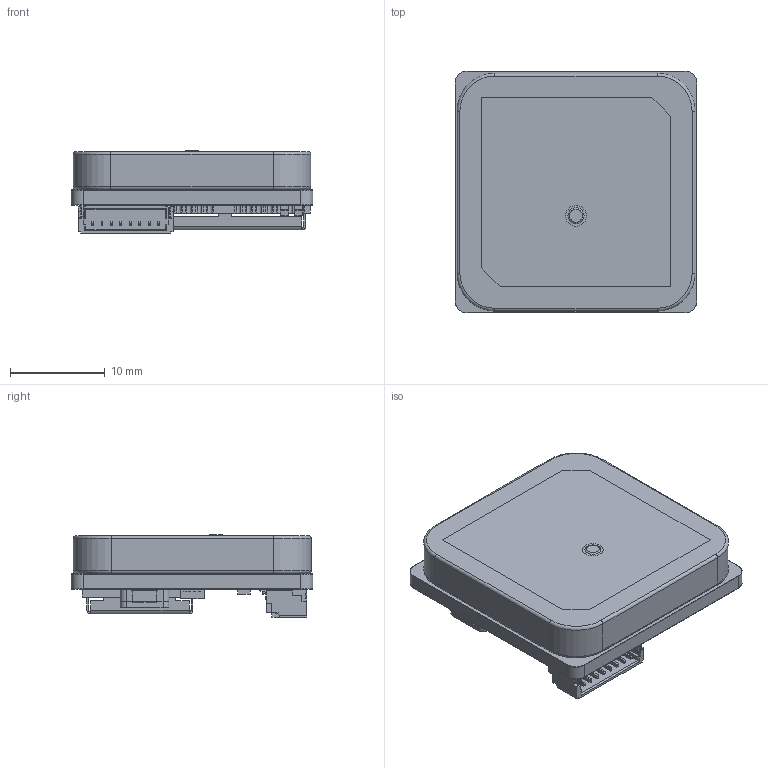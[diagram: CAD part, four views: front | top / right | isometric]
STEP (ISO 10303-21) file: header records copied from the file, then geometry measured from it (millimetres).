
FILE_DESCRIPTION(/* description */ ('KiCad electronic assembly'),/* implementation_level */ '2;1');
FILE_NAME(/* name */ 'orbit_public.step',/* time_stamp */ '2026-03-02T09:55:32+02:00',/* author */ (''),/* organization */ (''),/* preprocessor_version */ 'ST-DEVELOPER v20.1',/* originating_system */ 'Autodesk Translation Framework v14.21.0.0',/* authorisation */ '');
FILE_SCHEMA (('AUTOMOTIVE_DESIGN { 1 0 10303 214 3 1 1 }'));
Length unit declared in the file: millimetre
Products named in the file (14): Orion_public 1; SM08B-SRSS-TB (LF)(SN)--3DModel-STEP-269445; NEO-M9N-00B; NEO-M9N_NEO-M9N; IHLP2020BZER1R0M11; TPS63070RNMR; FRAME-RNM0015A; BODY-QFN; Texas_R-PUSON-N14; Orion_soldermask; Orion_PCB; R_0603_1608Metric; LED_0603_1608Metric; 2025-09-21-14-29-54-580
Assembly tree (15 placements, depth 3):
  Orion_public 1
    LED_0603_1608Metric  x2
    SM08B-SRSS-TB (LF)(SN)--3DModel-STEP-269445
    R_0603_1608Metric  x2
    NEO-M9N-00B
      NEO-M9N_NEO-M9N
    IHLP2020BZER1R0M11
    TPS63070RNMR
      FRAME-RNM0015A
      BODY-QFN
    Texas_R-PUSON-N14
    Orion_soldermask
    Orion_PCB
    2025-09-21-14-29-54-580
Bounding box: 25.5 x 25.5 x 8.72 mm (x, y, z)
Volume: 3766.4 mm3; surface area: 6642.5 mm2
Topology: 73 solids, 75 shells, 1282 faces, 3237 edges, 2111 vertices
Faces by surface type: plane 1042, cylinder 226, torus 8, bspline 4, cone 2
Full cylindrical faces by diameter (mm): 0.2 x1, 0.9 x2, 0.95 x1, 1.458 x2, 1.7 x2, 2.2 x2, 3 x2
Entity records: 36400 total; most frequent: CARTESIAN_POINT 6381, ORIENTED_EDGE 6038, DIRECTION 5929, EDGE_CURVE 3036, LINE 2583, VECTOR 2583, VERTEX_POINT 1981, AXIS2_PLACEMENT_3D 1673
